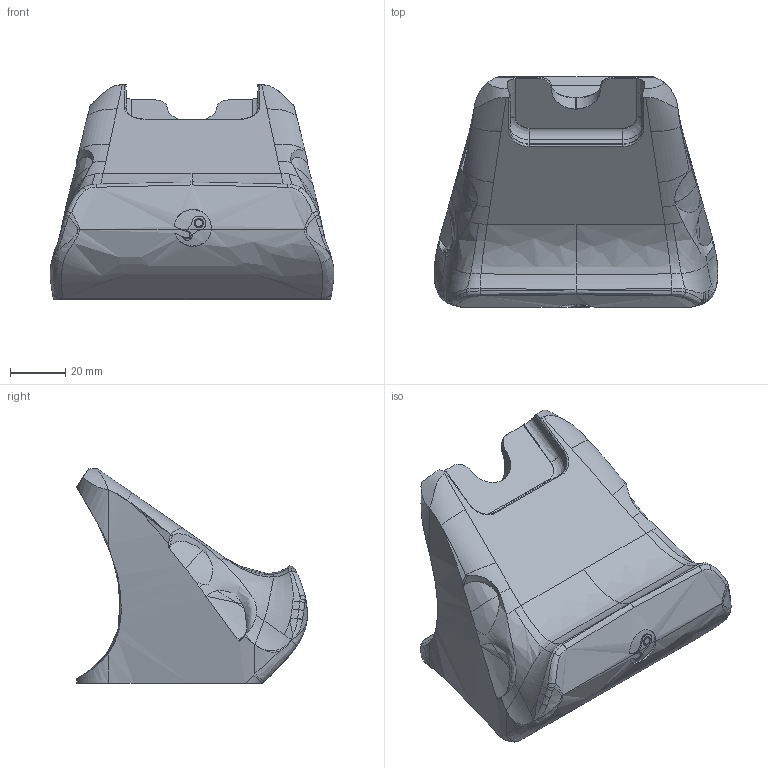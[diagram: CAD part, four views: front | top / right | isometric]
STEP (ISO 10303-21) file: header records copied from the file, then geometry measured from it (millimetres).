
FILE_DESCRIPTION(/* description */ (''),/* implementation_level */ '2;1');
FILE_NAME(/* name */ 'Steamdeck controller dock - With Logo, Solid.step',/* time_stamp */ '2026-05-16T16:16:31+01:00',/* author */ (''),/* organization */ (''),/* preprocessor_version */ 'ST-DEVELOPER v20.1',/* originating_system */ 'Autodesk Translation Framework v15.8.0.0',/* authorisation */ '');
FILE_SCHEMA (('AUTOMOTIVE_DESIGN { 1 0 10303 214 3 1 1 }'));
Length unit declared in the file: millimetre
Products named in the file (1): Steamdeck controller dock
Bounding box: 103.15 x 83.81 x 77.9 mm (x, y, z)
Volume: 304722 mm3; surface area: 30973.5 mm2
Topology: 1 solids, 1 shells, 209 faces, 594 edges, 375 vertices
Faces by surface type: bspline 175, plane 24, cylinder 10
Entity records: 27739 total; most frequent: CARTESIAN_POINT 23677, ORIENTED_EDGE 1158, EDGE_CURVE 579, B_SPLINE_CURVE_WITH_KNOTS 395, VERTEX_POINT 375, DIRECTION 305, EDGE_LOOP 212, FACE_OUTER_BOUND 209
